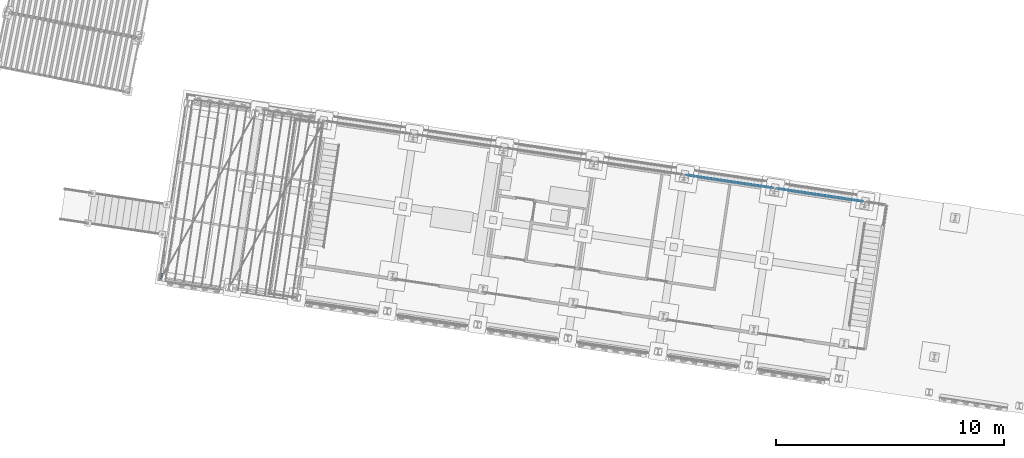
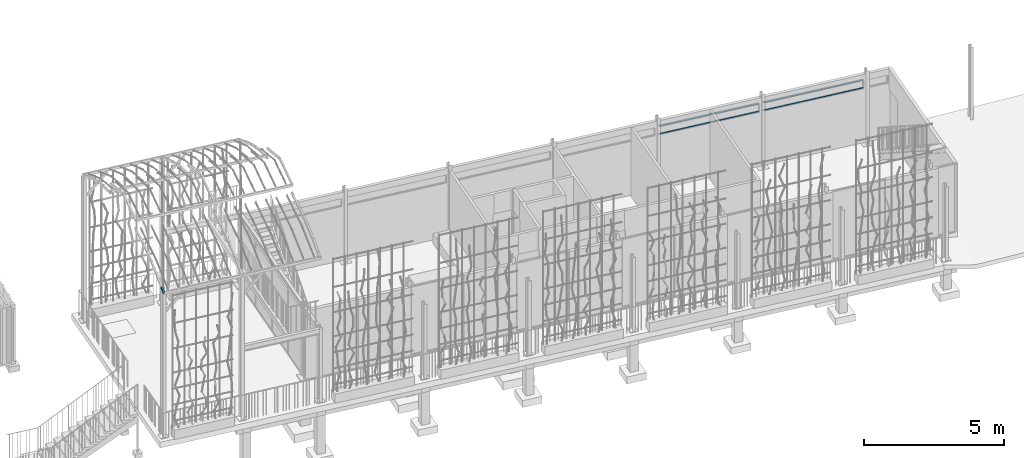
# One storey, part 104 of 142: 5 members, 1 element without a shape of its own.
"""IFC4 building model written with IfcOpenShell, lengths in metres."""

from ifc_helpers import new_model, si_unit, direction, frame, origin_with_axes, place, context, subcontext, project, spatial, rectangle, hollow_rectangle, extrude, material, material_profile, profile_set, profile_usage, type_object, element, aggregate, save


model = new_model("IFC4")

# Units and contexts
model_context = context("Model", 3, precision=1e-05, world=origin_with_axes(), true_north=direction((0.0, 1.0)))
body_context = subcontext(model_context, "Body", "Model", "MODEL_VIEW")
ifc_project = project(units=[si_unit("AREAUNIT", "SQUARE_METRE"), si_unit("VOLUMEUNIT", "CUBIC_METRE"), si_unit("LENGTHUNIT", "METRE")], contexts=[model_context])

# Site, building, storey
site_placement = place(None, origin_with_axes())
site = spatial("IfcSite", under=ifc_project, at=site_placement, Name="Lares · Rua das Mercês · artigo 4771")
building_placement = place(site_placement, frame((15.0, 9.7, 14.65), z_axis=(0.0, 0.0, 1.0), x_axis=(0.989015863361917, -0.147809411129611, 0.0)))
building = spatial("IfcBuilding", under=site, at=building_placement, Name="Casa Sobreposta")
storey_placement = place(building_placement, origin_with_axes())
storey = spatial("IfcBuildingStorey", under=building, at=storey_placement, Name="00 · Habitação e estacionamento", Elevation=14.65)

# Members
ifc_material = material(Name="Aço pintado / Stahl lackiert", Category="steel")
ifc_material_profile_1 = material_profile(ifc_material, rectangle(XDim=0.035, YDim=0.035))
ifc_profile_set_1 = profile_set([ifc_material_profile_1], Name="R0.035")
ifc_profile_usage_1 = profile_usage(ifc_profile_set_1)
member_type_1 = type_object("IfcMemberType", Name="R0.035 / steel", PredefinedType="NOTDEFINED", material=ifc_profile_set_1)
member_1_placement = place(storey_placement, frame((16.08, 6.4, 2.35), z_axis=(1.0, 0.0, 0.0), x_axis=(0.0, -1.0, 0.0)))
element("IfcMember", 1, at=member_1_placement, inside=storey, type_object=member_type_1, material=ifc_profile_usage_1, Name="Rasgo norte 5 · travessa", context=body_context, shape_type="SweptSolid", body=[
    extrude(rectangle(XDim=0.035, YDim=0.035), origin_with_axes(), (0.0, 0.0, 1.0), 3.84),
])
ifc_profile_usage_2 = profile_usage(ifc_profile_set_1)
member_2_placement = place(storey_placement, frame((16.08, 6.4, 2.7), z_axis=(1.0, 0.0, 0.0), x_axis=(0.0, -1.0, 0.0)))
element("IfcMember", 2, at=member_2_placement, inside=storey, type_object=member_type_1, material=ifc_profile_usage_2, Name="Rasgo norte 5 · travessa", context=body_context, shape_type="SweptSolid", body=[
    extrude(rectangle(XDim=0.035, YDim=0.035), origin_with_axes(), (0.0, 0.0, 1.0), 3.84),
])
ifc_profile_usage_3 = profile_usage(ifc_profile_set_1)
member_3_placement = place(storey_placement, frame((20.08, 6.4, 2.35), z_axis=(1.0, 0.0, 0.0), x_axis=(0.0, -1.0, 0.0)))
element("IfcMember", 3, at=member_3_placement, inside=storey, type_object=member_type_1, material=ifc_profile_usage_3, Name="Rasgo norte 6 · travessa", context=body_context, shape_type="SweptSolid", body=[
    extrude(rectangle(XDim=0.035, YDim=0.035), origin_with_axes(), (0.0, 0.0, 1.0), 3.84),
])
ifc_profile_usage_4 = profile_usage(ifc_profile_set_1)
member_4_placement = place(storey_placement, frame((20.08, 6.4, 2.7), z_axis=(1.0, 0.0, 0.0), x_axis=(0.0, -1.0, 0.0)))
element("IfcMember", 4, at=member_4_placement, inside=storey, type_object=member_type_1, material=ifc_profile_usage_4, Name="Rasgo norte 6 · travessa", context=body_context, shape_type="SweptSolid", body=[
    extrude(rectangle(XDim=0.035, YDim=0.035), origin_with_axes(), (0.0, 0.0, 1.0), 3.84),
])

# Assembly, member
assembly_placement = place(storey_placement, origin_with_axes())
assembly = element("IfcElementAssembly", 5, at=assembly_placement, inside=storey, Name="Pérgola · prolongamento da estufa 6 m", ObjectType="PERGOLA_GREENHOUSE_EXTENSION", PredefinedType="USERDEFINED")
ifc_material_profile_2 = material_profile(ifc_material, hollow_rectangle(XDim=0.06, YDim=0.1, WallThickness=0.004))
ifc_profile_set_2 = profile_set([ifc_material_profile_2], Name="RHS100x60x4")
ifc_profile_usage_5 = profile_usage(ifc_profile_set_2)
member_type_2 = type_object("IfcMemberType", Name="RHS100x60x4 / steel", PredefinedType="NOTDEFINED", material=ifc_profile_set_2)
member_5_placement = place(assembly_placement, frame((-6.0, -1.5, 6.23430000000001), z_axis=(0.0, 0.932991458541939, 0.35989851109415), x_axis=(1.0, 0.0, 0.0)))
member_5 = element("IfcMember", 6, at=member_5_placement, type_object=member_type_2, material=ifc_profile_usage_5, Name="Pérgola · arco contínuo com a estufa", context=body_context, shape_type="SweptSolid", body=[
    extrude(hollow_rectangle(XDim=0.06, YDim=0.1, WallThickness=0.004), origin_with_axes(), (0.0, 0.0, 1.0), 0.249032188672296),
])
aggregate(assembly, [member_5])

save(model, "model.ifc")
